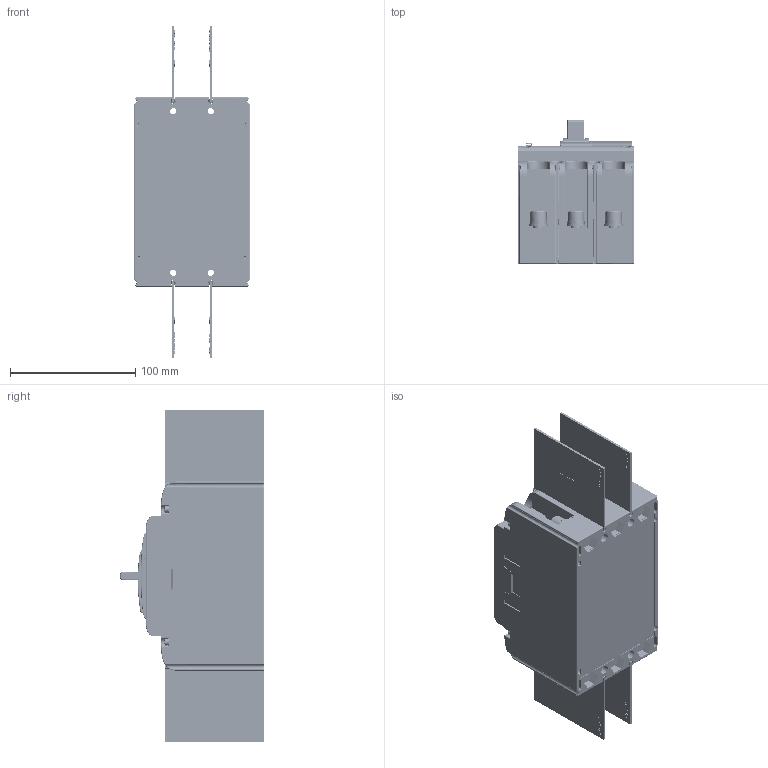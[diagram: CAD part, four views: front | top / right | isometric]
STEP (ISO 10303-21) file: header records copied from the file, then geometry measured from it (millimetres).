
FILE_DESCRIPTION((''),'2;1');
FILE_NAME('2TZD_256_1199_ASM','2019-03-14T',('Administrator'),(''),'PRO/ENGINEER BY PARAMETRIC TECHNOLOGY CORPORATION, 2017170','PRO/ENGINEER BY PARAMETRIC TECHNOLOGY CORPORATION, 2017170','');
FILE_SCHEMA(('CONFIG_CONTROL_DESIGN'));
Products named in the file (31): 8TZD_024_6022; GB_T809-M3X10-A; 5TZD_024_6022_ASM; GB_T6170-M8; 8TZD_585_6031; 5TZD_552_6017_ASM; 5TZD_552_6018_ASM; 8TZD_742_6059; 8TZD_742_6061; 8TZD_742_6063; 8TZD_585_6032; 5TZD_558_6027_ASM; 5TZD_558_6028_ASM; 5TZD_558_6029_ASM; 5TZD_558_6026_ASM; 8TZD_315_6031; GB_T809-M3X6-B; 5TZD_315_6010_ASM; 8TZD_253_6011; 8TZD_282_6012_AF0; Q_TZJ0301_1-M8X16; 8TZD_742_6077; 8TZD_315_6039; GB_T9074_4-M3X6; Q_TZJ0304_1-M3_5X18; Q_TZJ0304_1-M4X14; Q_TZJ0304_1-M3X18; 8TZD_750_6007; Q_TZJ0304_1-M3X25; 8TZD_253_6010; 2TZD_256_1199_ASM
Assembly tree (82 placements, depth 6):
  2TZD_256_1199_ASM
    5TZD_024_6022_ASM
      8TZD_024_6022
      GB_T809-M3X10-A  x6
    GB_T6170-M8  x6
    5TZD_552_6018_ASM  x3
      5TZD_552_6017_ASM
        8TZD_585_6031
    8TZD_742_6059  x3
    8TZD_742_6061  x3
    8TZD_742_6063  x3
    5TZD_558_6026_ASM
      5TZD_558_6029_ASM  x3
        5TZD_558_6028_ASM
          5TZD_558_6027_ASM
            8TZD_585_6032
    5TZD_315_6010_ASM
      8TZD_315_6031
      GB_T809-M3X6-B  x4
    8TZD_253_6011
    8TZD_282_6012_AF0
    Q_TZJ0301_1-M8X16  x6
    8TZD_742_6077  x4
    8TZD_315_6039
    GB_T9074_4-M3X6  x4
    Q_TZJ0304_1-M3_5X18  x10
    Q_TZJ0304_1-M4X14  x3
    Q_TZJ0304_1-M3X18  x3
    8TZD_750_6007
    Q_TZJ0304_1-M3X25  x6
    8TZD_253_6010
Bounding box: 93 x 114.71 x 265 mm (x, y, z)
Volume: 1026512.5 mm3; surface area: 384257.4 mm2
Topology: 74 solids, 150 shells, 7367 faces, 19566 edges, 12744 vertices
Faces by surface type: plane 5473, cylinder 1361, cone 226, torus 143, sphere 88, bspline 76
Entity records: 168179 total; most frequent: CARTESIAN_POINT 40125, ORIENTED_EDGE 27092, DIRECTION 25355, EDGE_CURVE 13570, VECTOR 10727, LINE 10727, VERTEX_POINT 8860, AXIS2_PLACEMENT_3D 7314
